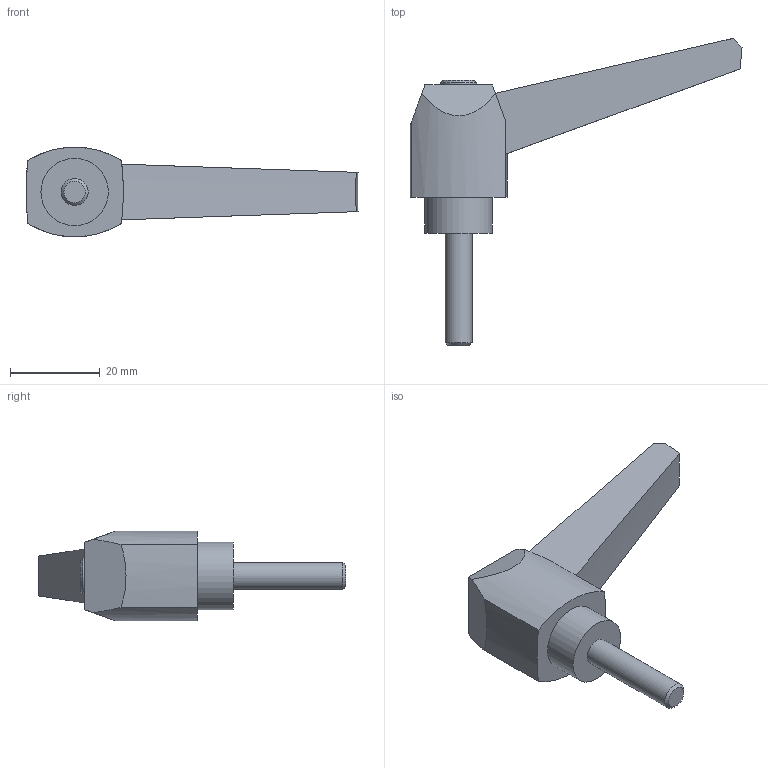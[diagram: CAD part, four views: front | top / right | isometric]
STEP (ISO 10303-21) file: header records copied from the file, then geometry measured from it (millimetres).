
FILE_DESCRIPTION( ( 'STEP AP203' ), '1' );
FILE_NAME( 'C:/Temp/Ganter_Step_05_03_2020/data/2_1/gn_500/gn_500_ms/Adjustable hand lever GN 500-63-M6-25-SW.stp', '2020-03-05T11:26:33', ( 'License CC BY-ND 4.0' ), ( 'CADENAS' ), ' ', 'PARTsolutions', ' ' );
FILE_SCHEMA( ( 'CONFIG_CONTROL_DESIGN' ) );
Length unit declared in the file: millimetre
Products named in the file (1): _Adjustable hand lever GN 500-63-M6-25-SW
Bounding box: 73.9 x 68.35 x 20 mm (x, y, z)
Volume: 17197.8 mm3; surface area: 5439.6 mm2
Topology: 1 solids, 1 shells, 24 faces, 56 edges, 37 vertices
Faces by surface type: plane 11, cylinder 7, cone 6
Full cylindrical faces by diameter (mm): 6 x1, 8 x1, 15 x1
Entity records: 708 total; most frequent: DIRECTION 122, CARTESIAN_POINT 117, ORIENTED_EDGE 100, EDGE_CURVE 50, AXIS2_PLACEMENT_3D 49, VERTEX_POINT 36, EDGE_LOOP 32, FACE_OUTER_BOUND 27
